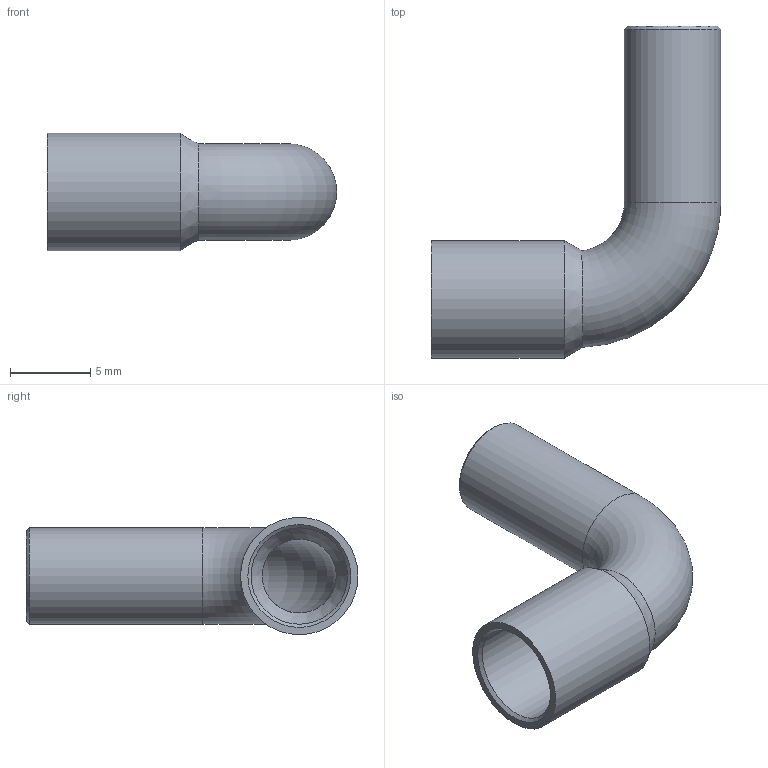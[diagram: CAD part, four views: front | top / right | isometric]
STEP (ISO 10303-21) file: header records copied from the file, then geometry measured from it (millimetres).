
FILE_DESCRIPTION((''),'2;1');
FILE_NAME('G:\SANHA-Ternat\Technik\Management\Bouwmaten + markeringen\z-maattekeningen 3D\5000\5092\150926(0)_gem.stp','2019-08-26T11:38:05',('vdvijverd'),(''),'Autodesk Inventor 2009','Autodesk Inventor 2009','');
FILE_SCHEMA(('AUTOMOTIVE_DESIGN { 1 0 10303 214 1 1 1 1 }'));
Length unit declared in the file: millimetre
Products named in the file (1): 150926(0)_gem
Bounding box: 18 x 20.65 x 7.3 mm (x, y, z)
Volume: 361.9 mm3; surface area: 1081.4 mm2
Topology: 1 solids, 1 shells, 12 faces, 24 edges, 14 vertices
Faces by surface type: cone 4, cylinder 4, plane 2, torus 2
Full cylindrical faces by diameter (mm): 4.6 x1, 6 x2, 7.3 x1
Entity records: 338 total; most frequent: CARTESIAN_POINT 107, DIRECTION 46, ORIENTED_EDGE 24, EDGE_LOOP 24, AXIS2_PLACEMENT_3D 23, VERTEX_POINT 12, EDGE_CURVE 12, FACE_OUTER_BOUND 12
